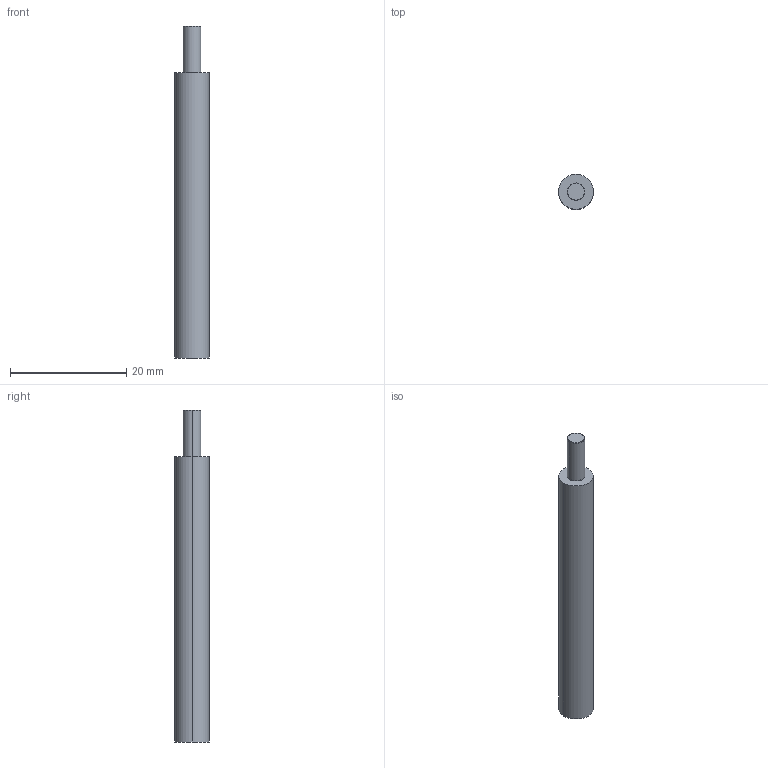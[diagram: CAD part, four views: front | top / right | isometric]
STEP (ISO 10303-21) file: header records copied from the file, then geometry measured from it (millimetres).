
FILE_DESCRIPTION(('STEP AP214'),'1');
FILE_NAME('cctmp_958F04DA-DFF9-4DE5-B47A-7554451FC4E4_2020_09_30_15_42_48_0402..stp','2020-09-30T13:42:48',('Meusburger Georg GmbH & Co KG'),('CADClick - www.CADClick.com'),'Spatial InterOp 3D',' ','unknown authorization');
FILE_SCHEMA(('AUTOMOTIVE_DESIGN { 1 0 10303 214 1 1 1 1 }'));
Length unit declared in the file: millimetre
Products named in the file (1): WZF12248P_3
Bounding box: 6 x 6 x 57 mm (x, y, z)
Volume: 1441.8 mm3; surface area: 1055.3 mm2
Topology: 1 solids, 1 shells, 12 faces, 22 edges, 14 vertices
Faces by surface type: cylinder 6, plane 4, cone 2
Entity records: 424 total; most frequent: DIRECTION 62, CARTESIAN_POINT 49, ORIENTED_EDGE 44, AXIS2_PLACEMENT_3D 27, EDGE_CURVE 22, EDGE_LOOP 14, VERTEX_POINT 14, CIRCLE 14
